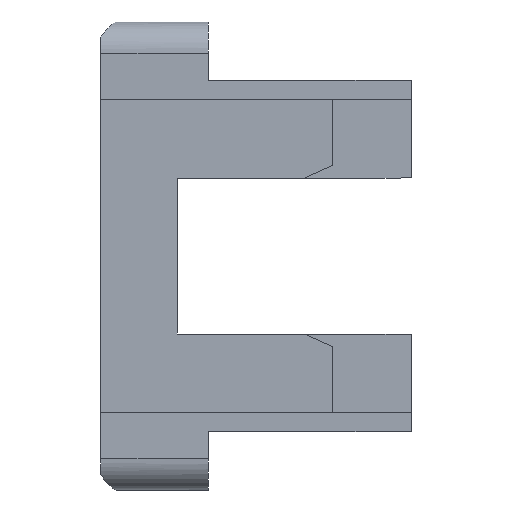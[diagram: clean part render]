
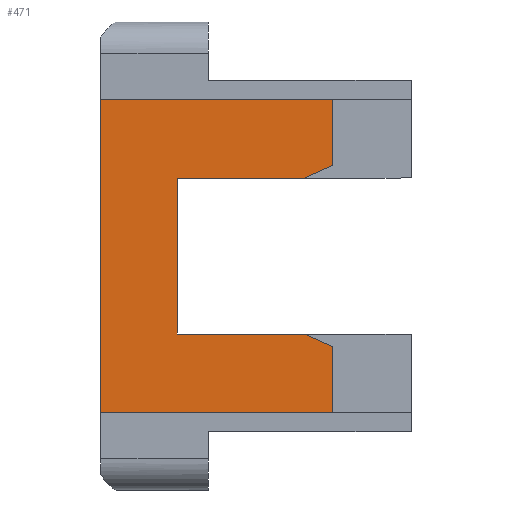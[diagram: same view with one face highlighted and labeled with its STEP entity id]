
A CAD part, front view. The second image highlights one B-rep face of the part: STEP entity #471.
In plain terms, the highlighted planar face has unit normal (0, -1, 0).
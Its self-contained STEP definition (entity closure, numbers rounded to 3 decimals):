
#141=FACE_OUTER_BOUND('',#618,.T.);
#223=LINE('',#2074,#348);
#224=LINE('',#2078,#349);
#225=LINE('',#2080,#350);
#226=LINE('',#2082,#351);
#227=LINE('',#2084,#352);
#228=LINE('',#2086,#353);
#229=LINE('',#2088,#354);
#230=LINE('',#2090,#355);
#231=LINE('',#2092,#356);
#232=LINE('',#2094,#357);
#348=VECTOR('',#1648,1.);
#349=VECTOR('',#1653,1.);
#350=VECTOR('',#1654,1.);
#351=VECTOR('',#1655,1.);
#352=VECTOR('',#1656,1.);
#353=VECTOR('',#1657,1.);
#354=VECTOR('',#1658,1.);
#355=VECTOR('',#1659,1.);
#356=VECTOR('',#1660,1.);
#357=VECTOR('',#1661,1.);
#471=ADVANCED_FACE('',(#141),#540,.F.);
#540=PLANE('',#1458);
#618=EDGE_LOOP('',(#750,#751,#752,#753,#754,#755,#756,#757,#758,#759));
#750=ORIENTED_EDGE('',*,*,#1254,.F.);
#751=ORIENTED_EDGE('',*,*,#1255,.T.);
#752=ORIENTED_EDGE('',*,*,#1256,.T.);
#753=ORIENTED_EDGE('',*,*,#1257,.T.);
#754=ORIENTED_EDGE('',*,*,#1258,.F.);
#755=ORIENTED_EDGE('',*,*,#1259,.F.);
#756=ORIENTED_EDGE('',*,*,#1260,.T.);
#757=ORIENTED_EDGE('',*,*,#1261,.T.);
#758=ORIENTED_EDGE('',*,*,#1262,.F.);
#759=ORIENTED_EDGE('',*,*,#1252,.T.);
#1113=VERTEX_POINT('',#2069);
#1115=VERTEX_POINT('',#2073);
#1117=VERTEX_POINT('',#2079);
#1118=VERTEX_POINT('',#2081);
#1119=VERTEX_POINT('',#2083);
#1120=VERTEX_POINT('',#2085);
#1121=VERTEX_POINT('',#2087);
#1122=VERTEX_POINT('',#2089);
#1123=VERTEX_POINT('',#2091);
#1124=VERTEX_POINT('',#2093);
#1252=EDGE_CURVE('',#1113,#1115,#223,.T.);
#1254=EDGE_CURVE('',#1117,#1115,#224,.T.);
#1255=EDGE_CURVE('',#1117,#1118,#225,.T.);
#1256=EDGE_CURVE('',#1118,#1119,#226,.T.);
#1257=EDGE_CURVE('',#1119,#1120,#227,.T.);
#1258=EDGE_CURVE('',#1121,#1120,#228,.T.);
#1259=EDGE_CURVE('',#1122,#1121,#229,.T.);
#1260=EDGE_CURVE('',#1122,#1123,#230,.T.);
#1261=EDGE_CURVE('',#1123,#1124,#231,.T.);
#1262=EDGE_CURVE('',#1113,#1124,#232,.T.);
#1458=AXIS2_PLACEMENT_3D('',#2095,#1662,#1663);
#1648=DIRECTION('',(1.,0.,0.));
#1653=DIRECTION('',(0.,0.,-1.));
#1654=DIRECTION('',(-1.,0.,0.));
#1655=DIRECTION('',(0.,0.,-1.));
#1656=DIRECTION('',(1.,0.,0.));
#1657=DIRECTION('',(-0.412,0.,-0.911));
#1658=DIRECTION('',(0.,0.,-1.));
#1659=DIRECTION('',(1.,0.,0.));
#1660=DIRECTION('',(0.,0.,-1.));
#1661=DIRECTION('',(-0.412,0.,0.911));
#1662=DIRECTION('',(0.,1.,0.));
#1663=DIRECTION('',(0.,0.,1.));
#2069=CARTESIAN_POINT('',(101.419,102.899,24.988));
#2073=CARTESIAN_POINT('',(109.888,102.899,24.988));
#2074=CARTESIAN_POINT('',(69.788,102.899,24.988));
#2078=CARTESIAN_POINT('',(109.888,102.899,24.888));
#2079=CARTESIAN_POINT('',(109.888,102.899,54.688));
#2080=CARTESIAN_POINT('',(69.788,102.899,54.688));
#2081=CARTESIAN_POINT('',(69.688,102.899,54.688));
#2082=CARTESIAN_POINT('',(69.688,102.899,68.738));
#2083=CARTESIAN_POINT('',(69.688,102.899,24.988));
#2084=CARTESIAN_POINT('',(69.788,102.899,24.988));
#2085=CARTESIAN_POINT('',(78.158,102.899,24.988));
#2086=CARTESIAN_POINT('',(93.157,102.899,58.177));
#2087=CARTESIAN_POINT('',(79.788,102.899,28.597));
#2088=CARTESIAN_POINT('',(79.788,102.899,44.888));
#2089=CARTESIAN_POINT('',(79.788,102.899,44.888));
#2090=CARTESIAN_POINT('',(69.788,102.899,44.888));
#2091=CARTESIAN_POINT('',(99.788,102.899,44.888));
#2092=CARTESIAN_POINT('',(99.788,102.899,44.888));
#2093=CARTESIAN_POINT('',(99.788,102.899,28.597));
#2094=CARTESIAN_POINT('',(79.636,102.899,73.188));
#2095=CARTESIAN_POINT('',(69.788,102.899,68.738));
